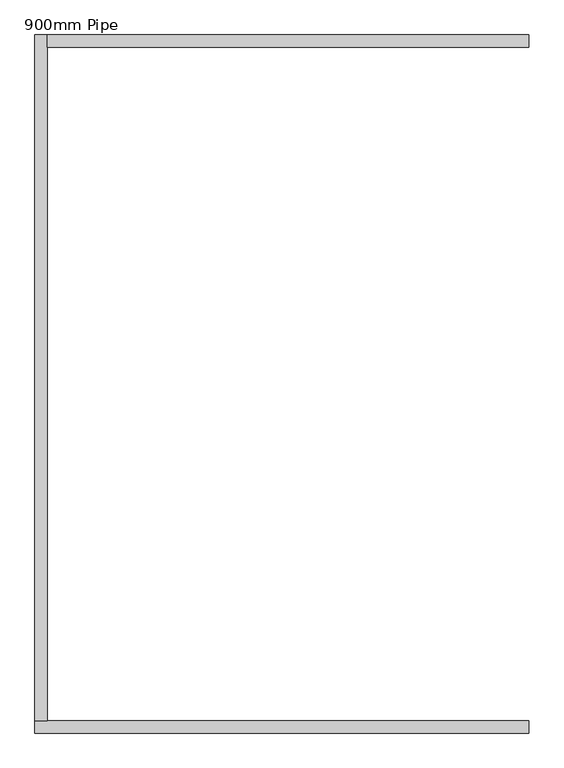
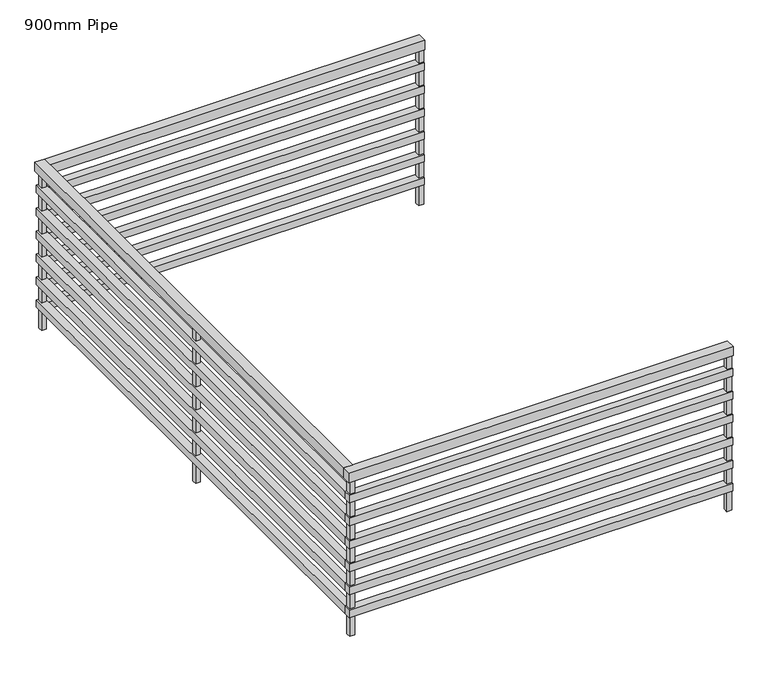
"""IFC4 building model written with IfcOpenShell, lengths in millimetres: railing geometry, 900mm Pipe."""

from ifc_helpers import new_model, si_unit, frame, origin, place, context, project, spatial, polyline, outline, extrude, source, transform, mapped, element, save


def railing_900mm_pipe_1f24636d(model_context):
    return source(origin(), model_context, "Body", "SweptSolid", [
        extrude(outline(polyline([(-10656.4352243, 4037.6290541), (-10656.4352243, 3987.6290541), (-12587.1962165, 3987.6290541), (-12587.1962165, 4037.6290541), (-10656.4352243, 4037.6290541)])), frame((0.0, 0.0, 12650.0), z_axis=(0.0, 0.0, 1.0), x_axis=(1.0, 0.0, 0.0)), (0.0, 0.0, 1.0), 50.0),
        extrude(outline(polyline([(-12637.1962165, 4037.6290541), (-12587.1962165, 4037.6290541), (-12587.1962165, 1287.6290541), (-12637.1962165, 1287.6290541), (-12637.1962165, 4037.6290541)])), frame((0.0, 0.0, 12650.0), z_axis=(0.0, 0.0, 1.0), x_axis=(1.0, 0.0, 0.0)), (0.0, 0.0, 1.0), 50.0),
        extrude(outline(polyline([(-12637.1962165, 1237.6290541), (-12637.1962165, 1287.6290541), (-10656.4352243, 1287.6290541), (-10656.4352243, 1237.6290541), (-12637.1962165, 1237.6290541)])), frame((0.0, 0.0, 12650.0), z_axis=(0.0, 0.0, 1.0), x_axis=(1.0, 0.0, 0.0)), (0.0, 0.0, 1.0), 50.0),
        extrude(outline(polyline([(-10656.4352243, 4032.6290541), (-10656.4352243, 3992.6290541), (-12592.1962165, 3992.6290541), (-12592.1962165, 4032.6290541), (-10656.4352243, 4032.6290541)])), frame((0.0, 0.0, 12535.0), z_axis=(0.0, 0.0, 1.0), x_axis=(1.0, 0.0, 0.0)), (0.0, 0.0, 1.0), 40.0),
        extrude(outline(polyline([(-12632.1962165, 4032.6290541), (-12592.1962165, 4032.6290541), (-12592.1962165, 1282.6290541), (-12632.1962165, 1282.6290541), (-12632.1962165, 4032.6290541)])), frame((0.0, 0.0, 12535.0), z_axis=(0.0, 0.0, 1.0), x_axis=(1.0, 0.0, 0.0)), (0.0, 0.0, 1.0), 40.0),
        extrude(outline(polyline([(-12632.1962165, 1242.6290541), (-12632.1962165, 1282.6290541), (-10656.4352243, 1282.6290541), (-10656.4352243, 1242.6290541), (-12632.1962165, 1242.6290541)])), frame((0.0, 0.0, 12535.0), z_axis=(0.0, 0.0, 1.0), x_axis=(1.0, 0.0, 0.0)), (0.0, 0.0, 1.0), 40.0),
        extrude(outline(polyline([(-10656.4352243, 4032.6290541), (-10656.4352243, 3992.6290541), (-12592.1962165, 3992.6290541), (-12592.1962165, 4032.6290541), (-10656.4352243, 4032.6290541)])), frame((0.0, 0.0, 12410.0), z_axis=(0.0, 0.0, 1.0), x_axis=(1.0, 0.0, 0.0)), (0.0, 0.0, 1.0), 40.0),
        extrude(outline(polyline([(-12632.1962165, 4032.6290541), (-12592.1962165, 4032.6290541), (-12592.1962165, 1282.6290541), (-12632.1962165, 1282.6290541), (-12632.1962165, 4032.6290541)])), frame((0.0, 0.0, 12410.0), z_axis=(0.0, 0.0, 1.0), x_axis=(1.0, 0.0, 0.0)), (0.0, 0.0, 1.0), 40.0),
        extrude(outline(polyline([(-12632.1962165, 1242.6290541), (-12632.1962165, 1282.6290541), (-10656.4352243, 1282.6290541), (-10656.4352243, 1242.6290541), (-12632.1962165, 1242.6290541)])), frame((0.0, 0.0, 12410.0), z_axis=(0.0, 0.0, 1.0), x_axis=(1.0, 0.0, 0.0)), (0.0, 0.0, 1.0), 40.0),
        extrude(outline(polyline([(-10656.4352243, 4032.6290541), (-10656.4352243, 3992.6290541), (-12592.1962165, 3992.6290541), (-12592.1962165, 4032.6290541), (-10656.4352243, 4032.6290541)])), frame((0.0, 0.0, 12285.0), z_axis=(0.0, 0.0, 1.0), x_axis=(1.0, 0.0, 0.0)), (0.0, 0.0, 1.0), 40.0),
        extrude(outline(polyline([(-12632.1962165, 4032.6290541), (-12592.1962165, 4032.6290541), (-12592.1962165, 1282.6290541), (-12632.1962165, 1282.6290541), (-12632.1962165, 4032.6290541)])), frame((0.0, 0.0, 12285.0), z_axis=(0.0, 0.0, 1.0), x_axis=(1.0, 0.0, 0.0)), (0.0, 0.0, 1.0), 40.0),
        extrude(outline(polyline([(-12632.1962165, 1242.6290541), (-12632.1962165, 1282.6290541), (-10656.4352243, 1282.6290541), (-10656.4352243, 1242.6290541), (-12632.1962165, 1242.6290541)])), frame((0.0, 0.0, 12285.0), z_axis=(0.0, 0.0, 1.0), x_axis=(1.0, 0.0, 0.0)), (0.0, 0.0, 1.0), 40.0),
        extrude(outline(polyline([(-10656.4352243, 4032.6290541), (-10656.4352243, 3992.6290541), (-12592.1962165, 3992.6290541), (-12592.1962165, 4032.6290541), (-10656.4352243, 4032.6290541)])), frame((0.0, 0.0, 12160.0), z_axis=(0.0, 0.0, 1.0), x_axis=(1.0, 0.0, 0.0)), (0.0, 0.0, 1.0), 40.0),
        extrude(outline(polyline([(-12632.1962165, 4032.6290541), (-12592.1962165, 4032.6290541), (-12592.1962165, 1282.6290541), (-12632.1962165, 1282.6290541), (-12632.1962165, 4032.6290541)])), frame((0.0, 0.0, 12160.0), z_axis=(0.0, 0.0, 1.0), x_axis=(1.0, 0.0, 0.0)), (0.0, 0.0, 1.0), 40.0),
        extrude(outline(polyline([(-12632.1962165, 1242.6290541), (-12632.1962165, 1282.6290541), (-10656.4352243, 1282.6290541), (-10656.4352243, 1242.6290541), (-12632.1962165, 1242.6290541)])), frame((0.0, 0.0, 12160.0), z_axis=(0.0, 0.0, 1.0), x_axis=(1.0, 0.0, 0.0)), (0.0, 0.0, 1.0), 40.0),
        extrude(outline(polyline([(-10656.4352243, 4032.6290541), (-10656.4352243, 3992.6290541), (-12592.1962165, 3992.6290541), (-12592.1962165, 4032.6290541), (-10656.4352243, 4032.6290541)])), frame((0.0, 0.0, 12035.0), z_axis=(0.0, 0.0, 1.0), x_axis=(1.0, 0.0, 0.0)), (0.0, 0.0, 1.0), 40.0),
        extrude(outline(polyline([(-12632.1962165, 4032.6290541), (-12592.1962165, 4032.6290541), (-12592.1962165, 1282.6290541), (-12632.1962165, 1282.6290541), (-12632.1962165, 4032.6290541)])), frame((0.0, 0.0, 12035.0), z_axis=(0.0, 0.0, 1.0), x_axis=(1.0, 0.0, 0.0)), (0.0, 0.0, 1.0), 40.0),
        extrude(outline(polyline([(-12632.1962165, 1242.6290541), (-12632.1962165, 1282.6290541), (-10656.4352243, 1282.6290541), (-10656.4352243, 1242.6290541), (-12632.1962165, 1242.6290541)])), frame((0.0, 0.0, 12035.0), z_axis=(0.0, 0.0, 1.0), x_axis=(1.0, 0.0, 0.0)), (0.0, 0.0, 1.0), 40.0),
        extrude(outline(polyline([(-10656.4352243, 4032.6290541), (-10656.4352243, 3992.6290541), (-12592.1962165, 3992.6290541), (-12592.1962165, 4032.6290541), (-10656.4352243, 4032.6290541)])), frame((0.0, 0.0, 11910.0), z_axis=(0.0, 0.0, 1.0), x_axis=(1.0, 0.0, 0.0)), (0.0, 0.0, 1.0), 40.0),
        extrude(outline(polyline([(-12632.1962165, 4032.6290541), (-12592.1962165, 4032.6290541), (-12592.1962165, 1282.6290541), (-12632.1962165, 1282.6290541), (-12632.1962165, 4032.6290541)])), frame((0.0, 0.0, 11910.0), z_axis=(0.0, 0.0, 1.0), x_axis=(1.0, 0.0, 0.0)), (0.0, 0.0, 1.0), 40.0),
        extrude(outline(polyline([(-12632.1962165, 1242.6290541), (-12632.1962165, 1282.6290541), (-10656.4352243, 1282.6290541), (-10656.4352243, 1242.6290541), (-12632.1962165, 1242.6290541)])), frame((0.0, 0.0, 11910.0), z_axis=(0.0, 0.0, 1.0), x_axis=(1.0, 0.0, 0.0)), (0.0, 0.0, 1.0), 40.0),
        extrude(outline(polyline([(-12624.6962165, 2650.1290541), (-12599.6962165, 2650.1290541), (-12599.6962165, 2625.1290541), (-12624.6962165, 2625.1290541), (-12624.6962165, 2650.1290541)])), frame((0.0, 0.0, 11800.0), z_axis=(0.0, 0.0, 1.0), x_axis=(1.0, 0.0, 0.0)), (0.0, 0.0, 1.0), 850.0),
        extrude(outline(polyline([(-12624.6962165, 1275.1290541), (-12599.6962165, 1275.1290541), (-12599.6962165, 1250.1290541), (-12624.6962165, 1250.1290541), (-12624.6962165, 1275.1290541)])), frame((0.0, 0.0, 11800.0), z_axis=(0.0, 0.0, 1.0), x_axis=(1.0, 0.0, 0.0)), (0.0, 0.0, 1.0), 850.0),
        extrude(outline(polyline([(-12599.6962165, 4025.1290541), (-12599.6962165, 4000.1290541), (-12624.6962165, 4000.1290541), (-12624.6962165, 4025.1290541), (-12599.6962165, 4025.1290541)])), frame((0.0, 0.0, 11800.0), z_axis=(0.0, 0.0, 1.0), x_axis=(1.0, 0.0, 0.0)), (0.0, 0.0, 1.0), 850.0),
        extrude(outline(polyline([(-10681.4352243, 1250.1290541), (-10681.4352243, 1275.1290541), (-10656.4352243, 1275.1290541), (-10656.4352243, 1250.1290541), (-10681.4352243, 1250.1290541)])), frame((0.0, 0.0, 11800.0), z_axis=(0.0, 0.0, 1.0), x_axis=(1.0, 0.0, 0.0)), (0.0, 0.0, 1.0), 850.0),
        extrude(outline(polyline([(-10656.4352243, 4025.1290541), (-10656.4352243, 4000.1290541), (-10681.4352243, 4000.1290541), (-10681.4352243, 4025.1290541), (-10656.4352243, 4025.1290541)])), frame((0.0, 0.0, 11800.0), z_axis=(0.0, 0.0, 1.0), x_axis=(1.0, 0.0, 0.0)), (0.0, 0.0, 1.0), 850.0),
    ])


if __name__ == "__main__":
    model = new_model("IFC4")
    model_context = context("Model", 3, world=origin())
    ifc_project = project(units=[si_unit("LENGTHUNIT", "METRE", prefix="MILLI")], contexts=[model_context])
    site = spatial("IfcSite", under=ifc_project)
    building = spatial("IfcBuilding", under=site)
    placement = place(None, origin())
    railing_900mm_pipe_shape = railing_900mm_pipe_1f24636d(model_context)
    element("IfcRailing", 1, ObjectType="900mm Pipe", at=placement, inside=building, context=model_context, shape_type="MappedRepresentation", body=[
        mapped(railing_900mm_pipe_shape, transform((0.0, 0.0, 0.0), x_axis=(1.0, 0.0, 0.0), y_axis=(0.0, 1.0, 0.0), z_axis=(0.0, 0.0, 1.0))),
    ])
    save(model, "model.ifc")
